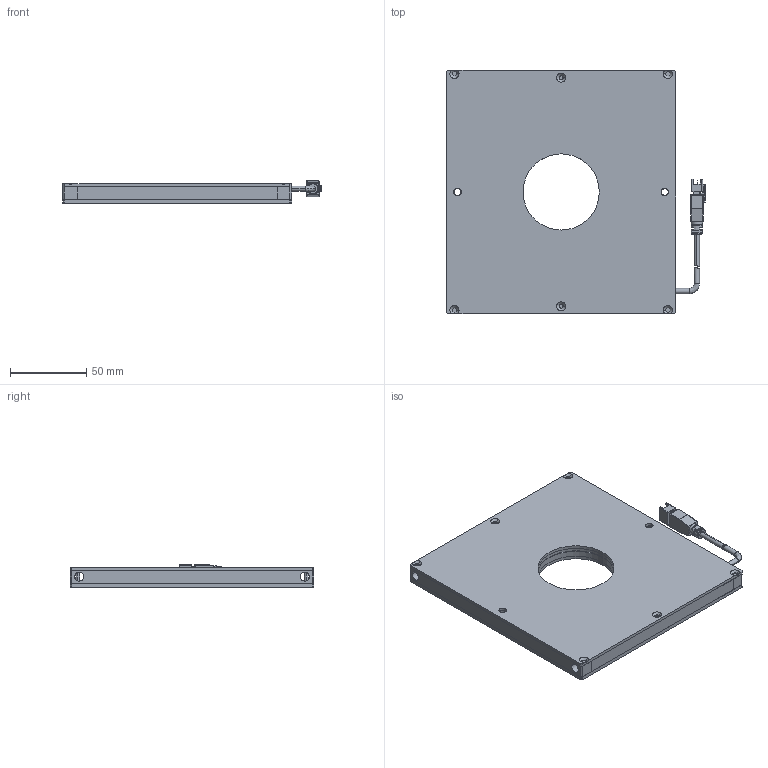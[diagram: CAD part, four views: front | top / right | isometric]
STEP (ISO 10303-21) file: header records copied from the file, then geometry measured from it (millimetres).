
FILE_DESCRIPTION (( 'STEP AP203' ), '1' );
FILE_NAME ('CRT-KFLC120110Y50-¼òÒ×3DÍ¼.STEP', '2021-11-30T01:23:27', ( 'Admin' ), ( '' ), 'SwSTEP 2.0', 'SolidWorks 2018', '' );
FILE_SCHEMA (( 'CONFIG_CONTROL_DESIGN' ));
Length unit declared in the file: millimetre
Products named in the file (1): CRT-KFLC120110Y50-潠眢3D芞
Bounding box: 169.45 x 160 x 14.85 mm (x, y, z)
Surface area: 137895.8 mm2 (no closed solid volume)
Topology: 0 solids, 14 shells, 290 faces, 929 edges, 625 vertices
Faces by surface type: plane 157, cylinder 102, cone 15, bspline 15, torus 1
Entity records: 10724 total; most frequent: CARTESIAN_POINT 2577, DIRECTION 1682, ORIENTED_EDGE 1544, EDGE_CURVE 919, VERTEX_POINT 625, VECTOR 598, LINE 598, AXIS2_PLACEMENT_3D 542
